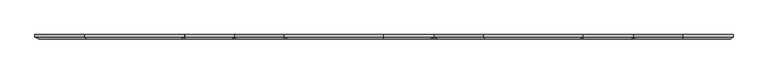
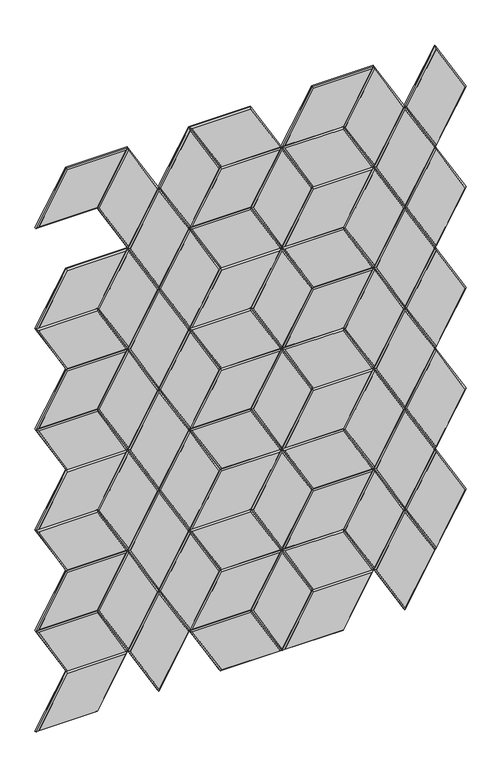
"""IFC4 building model written with IfcOpenShell, lengths in millimetres: proxy geometry, Wall_Cissu 8.3dm."""

import ifcopenshell
import ifcopenshell.guid

model = None  # the IFC model being written
_history = None  # IfcOwnerHistory: only IFC2X3 demands one
_inside = {}  # id of a spatial element -> (the spatial element, [elements in it])
_under = {}  # id of a project, library or spatial element -> (it, [spatial elements below it])
_declared = {}  # id of a project -> (the project, [libraries it declares])
_typed = {}  # id of a type object -> (the type object, [elements of that type])
_made_of = {}  # id of a material, layer set ... -> (it, [elements and type objects made of it])


def new_model(schema):
    """Start an empty IFC model of exactly this schema.

    Asked for "IFC4X3", IfcOpenShell would pick the latest addendum, in which some entities
    have other attributes; the version numbers below select the first issue.
    IFC2X3 requires an IfcOwnerHistory on every rooted entity: one is made here for all.
    """
    global model, _history
    if schema == "IFC4X3":
        model = ifcopenshell.file(schema_version=(4, 3, 0, 0))
    else:
        model = ifcopenshell.file(schema=schema)
    _inside.clear()
    _under.clear()
    _declared.clear()
    _typed.clear()
    _made_of.clear()
    _history = None
    if model.schema == "IFC2X3":
        org = make("IfcOrganization", Name="unknown")
        user = make(
            "IfcPersonAndOrganization",
            ThePerson=make("IfcPerson", FamilyName="unknown"),
            TheOrganization=org,
        )
        app = make(
            "IfcApplication",
            ApplicationDeveloper=org,
            Version="unknown",
            ApplicationFullName="unknown",
            ApplicationIdentifier="unknown",
        )
        _history = make(
            "IfcOwnerHistory",
            OwningUser=user,
            OwningApplication=app,
            ChangeAction="ADDED",
            CreationDate=0,
        )
    return model


def make(cls, **values):
    """One entity of the class cls with the attributes given. An attribute that is None is left unset."""
    return model.create_entity(
        cls, **{name: value for name, value in values.items() if value is not None}
    )


def rooted(cls, **values):
    """An entity with a GlobalId (a new one), such as an element, a storey or a relation."""
    return make(cls, GlobalId=ifcopenshell.guid.new(), OwnerHistory=_history, **values)


def si_unit(unit_type, name, prefix=None):
    """IfcSIUnit, for example si_unit("LENGTHUNIT", "METRE", prefix="MILLI")."""
    return make("IfcSIUnit", UnitType=unit_type, Prefix=prefix, Name=name)


def assignment(units):
    """IfcUnitAssignment: the units of a project."""
    return None if units is None else make("IfcUnitAssignment", Units=units)


def point(xyz):
    """IfcCartesianPoint."""
    return None if xyz is None else make("IfcCartesianPoint", Coordinates=xyz)


def direction(xyz):
    """IfcDirection."""
    return None if xyz is None else make("IfcDirection", DirectionRatios=xyz)


def frame(location, z_axis=None, x_axis=None):
    """IfcAxis2Placement3D, a coordinate frame: its origin and axes. An axis left out is left unset."""
    return make(
        "IfcAxis2Placement3D",
        Location=point(location),
        Axis=direction(z_axis),
        RefDirection=direction(x_axis),
    )


def origin():
    """The frame at (0, 0, 0) with its axes left unset."""
    return frame((0.0, 0.0, 0.0))


def place(relative_to, where):
    """IfcLocalPlacement: puts the frame where relative to a parent placement (None: the world)."""
    return make(
        "IfcLocalPlacement", PlacementRelTo=relative_to, RelativePlacement=where
    )


def context(
    kind, dimensions, precision=None, world=None, true_north=None, identifier=None
):
    """IfcGeometricRepresentationContext, for example the 3D "Model" context."""
    return make(
        "IfcGeometricRepresentationContext",
        ContextIdentifier=identifier,
        ContextType=kind,
        CoordinateSpaceDimension=dimensions,
        Precision=precision,
        WorldCoordinateSystem=world,
        TrueNorth=true_north,
    )


def project(units=None, contexts=None):
    """IfcProject with its units and contexts."""
    return rooted(
        "IfcProject",
        Name="project",
        RepresentationContexts=contexts,
        UnitsInContext=assignment(units),
    )


def spatial(cls, under=None, at=None, **own):
    """A site, building, storey or space (cls), placed at a placement, below another one or the project."""
    s = rooted(cls, ObjectPlacement=at, **own)
    if under is not None:
        _under.setdefault(under.id(), (under, []))[1].append(s)
    return s


def faces_of(points, faces, orient=None, outer=None):
    """IfcFace entities. A face is a list of loops; a loop is a list of indices into points, from 0.

    orient and outer hold one flag for each loop. By default every Orientation is true, the
    first loop of a face is its IfcFaceOuterBound and the others are IfcFaceBound.
    """
    made = []
    for i, loops in enumerate(faces):
        bounds = []
        for j, loop in enumerate(loops):
            is_outer = j == 0 if outer is None else outer[i][j]
            bounds.append(
                make(
                    "IfcFaceOuterBound" if is_outer else "IfcFaceBound",
                    Bound=make("IfcPolyLoop", Polygon=[points[k] for k in loop]),
                    Orientation=True if orient is None else orient[i][j],
                )
            )
        made.append(make("IfcFace", Bounds=bounds))
    return made


def faceted_brep(points, faces, orient=None, outer=None, voids=None):
    """IfcFacetedBrep: a solid bounded by flat faces; with voids (closed shells), ...WithVoids."""
    shared = [point(p) for p in points]
    hull = make("IfcClosedShell", CfsFaces=faces_of(shared, faces, orient, outer))
    if voids is None:
        return make("IfcFacetedBrep", Outer=hull)
    return make(
        "IfcFacetedBrepWithVoids",
        Outer=hull,
        Voids=[
            make(cls, CfsFaces=faces_of(shared, fs, o, b)) for cls, fs, o, b in voids
        ],
    )


def shape(context_of_items, identifier, shape_type, items):
    """IfcShapeRepresentation: the items that make up one representation, for example the "Body"."""
    return make(
        "IfcShapeRepresentation",
        ContextOfItems=context_of_items,
        RepresentationIdentifier=identifier,
        RepresentationType=shape_type,
        Items=items,
    )


def source(mapping_origin, context_of_items, identifier, shape_type, items):
    """IfcRepresentationMap: a shape defined once, which mapped items show again and again."""
    return make(
        "IfcRepresentationMap",
        MappingOrigin=mapping_origin,
        MappedRepresentation=shape(context_of_items, identifier, shape_type, items),
    )


def transform(
    local_origin,
    x_axis=None,
    y_axis=None,
    z_axis=None,
    scale=None,
    scale2=None,
    scale3=None,
    uniform=True,
):
    """IfcCartesianTransformationOperator3D, or its non-uniform kind. x_axis, y_axis, z_axis: its Axis1, 2, 3."""
    if uniform:
        return make(
            "IfcCartesianTransformationOperator3D",
            Axis1=direction(x_axis),
            Axis2=direction(y_axis),
            LocalOrigin=point(local_origin),
            Scale=scale,
            Axis3=direction(z_axis),
        )
    return make(
        "IfcCartesianTransformationOperator3DnonUniform",
        Axis1=direction(x_axis),
        Axis2=direction(y_axis),
        LocalOrigin=point(local_origin),
        Scale=scale,
        Axis3=direction(z_axis),
        Scale2=scale2,
        Scale3=scale3,
    )


def mapped(mapping_source, mapping_target):
    """IfcMappedItem: shows the shape of a source again, moved by a transform."""
    return make(
        "IfcMappedItem", MappingSource=mapping_source, MappingTarget=mapping_target
    )


def made_of(thing, what):
    """Note that an element or type object is made of a material, layer set ...; save() writes the relation."""
    if what is not None:
        _made_of.setdefault(what.id(), (what, []))[1].append(thing)
    return thing


def element(
    cls,
    number,
    at=None,
    inside=None,
    cuts=None,
    type_object=None,
    material=None,
    context=None,
    identifier="Body",
    shape_type=None,
    held_by="IfcProductDefinitionShape",
    body=None,
    shapes=None,
    **own,
):
    """One element of the class cls, such as IfcWall. Its Tag is "e" and its number.

    at: its placement. inside: the storey or other place that contains it. cuts: it is an
    opening in that element (IfcRelVoidsElement). A single representation is given by context,
    identifier, shape_type and body (its items); several are given by shapes. held_by: the class
    of the entity that holds the representations. save() writes the other relations.
    """
    e = rooted(cls, Tag="e%d" % number, ObjectPlacement=at, **own)
    if body is not None:
        shapes = [shape(context, identifier, shape_type, body)]
    if shapes is not None:
        e.Representation = make(held_by, Representations=shapes)
    if inside is not None:
        _inside.setdefault(inside.id(), (inside, []))[1].append(e)
    if cuts is not None:
        rooted(
            "IfcRelVoidsElement", RelatingBuildingElement=cuts, RelatedOpeningElement=e
        )
    if type_object is not None:
        _typed.setdefault(type_object.id(), (type_object, []))[1].append(e)
    return made_of(e, material)


def aggregate(whole, parts):
    """IfcRelAggregates: a whole, such as a stair, and the parts it consists of."""
    return rooted("IfcRelAggregates", RelatingObject=whole, RelatedObjects=parts)


def save(model, path):
    """Write the relations noted so far, then the file.

    IfcRelAggregates (storeys below a building ...), IfcRelContainedInSpatialStructure (elements
    in a storey), IfcRelDefinesByType, IfcRelAssociatesMaterial and IfcRelDeclares: one each for
    every whole, place, type object, material and project.
    """
    for whole, parts in _under.values():
        aggregate(whole, parts)
    for where, things in _inside.values():
        rooted(
            "IfcRelContainedInSpatialStructure",
            RelatedElements=things,
            RelatingStructure=where,
        )
    for kind, things in _typed.values():
        rooted("IfcRelDefinesByType", RelatedObjects=things, RelatingType=kind)
    for what, things in _made_of.values():
        rooted("IfcRelAssociatesMaterial", RelatedObjects=things, RelatingMaterial=what)
    for by, libraries in _declared.values():
        rooted("IfcRelDeclares", RelatingContext=by, RelatedDefinitions=libraries)
    model.write(path)


def generic_models_9c3d61d5(model_context):
    return source(origin(), model_context, "Body", "Brep", [
        faceted_brep([(12312.9011681, 6.0, 2316.0650044), (12033.5011681, 6.0, 2316.0650044), (12173.2011681, 6.0, 2558.0325022), (12452.6011681, 6.0, 2558.0325022), (12312.9011681, 0.0, 2316.0650044), (12033.5011681, 0.0, 2316.0650044), (12173.2011681, 0.0, 2558.0325022), (12452.6011681, 0.0, 2558.0325022), (12176.6652697, -6.0, 2552.0325022), (12043.8934729, -6.0, 2322.0650044), (12309.4370664, -6.0, 2322.0650044), (12442.2088632, -6.0, 2552.0325022)], [[[0, 1, 2, 3]], [[4, 5, 1, 0]], [[5, 6, 2, 1]], [[6, 7, 3, 2]], [[7, 4, 0, 3]], [[8, 9, 10, 11]], [[4, 10, 9, 5]], [[5, 9, 8, 6]], [[6, 8, 11, 7]], [[7, 11, 10, 4]]]),
        faceted_brep([(12312.9011681, 6.0, 2800.0), (12452.6011681, 6.0, 2558.0325022), (12173.2011681, 6.0, 2558.0325022), (12033.5011681, 6.0, 2800.0), (12312.9011681, 0.0, 2800.0), (12033.5011681, 0.0, 2800.0), (12173.2011681, 0.0, 2558.0325022), (12452.6011681, 0.0, 2558.0325022), (12176.6652697, -6.0, 2564.0325022), (12442.2088632, -6.0, 2564.0325022), (12309.4370664, -6.0, 2794.0), (12043.8934729, -6.0, 2794.0)], [[[0, 1, 2, 3]], [[4, 0, 3, 5]], [[5, 3, 2, 6]], [[6, 2, 1, 7]], [[7, 1, 0, 4]], [[8, 9, 10, 11]], [[4, 5, 11, 10]], [[5, 6, 8, 11]], [[6, 7, 9, 8]], [[7, 4, 10, 9]]]),
        faceted_brep([(12173.2011681, 6.0, 2558.0325022), (12033.5011681, 6.0, 2316.0650044), (11893.8011681, 6.0, 2558.0325022), (12033.5011681, 6.0, 2800.0), (12173.2011681, 0.0, 2558.0325022), (12033.5011681, 0.0, 2800.0), (11893.8011681, 0.0, 2558.0325022), (12033.5011681, 0.0, 2316.0650044), (11900.7293713, -6.0, 2558.0325022), (12033.5011681, -6.0, 2328.0650044), (12166.2729648, -6.0, 2558.0325022), (12033.5011681, -6.0, 2788.0)], [[[0, 1, 2, 3]], [[4, 0, 3, 5]], [[5, 3, 2, 6]], [[6, 2, 1, 7]], [[7, 1, 0, 4]], [[8, 9, 10, 11]], [[4, 5, 11, 10]], [[5, 6, 8, 11]], [[6, 7, 9, 8]], [[7, 4, 10, 9]]]),
        faceted_brep([(11614.4011681, 6.0, 2558.0325022), (11754.1011681, 6.0, 2800.0), (11893.8011681, 6.0, 2558.0325022), (11754.1011681, 6.0, 2316.0650044), (11614.4011681, 0.0, 2558.0325022), (11754.1011681, 0.0, 2800.0), (11893.8011681, 0.0, 2558.0325022), (11754.1011681, 0.0, 2316.0650044), (11886.8729648, -6.0, 2558.0325022), (11754.1011681, -6.0, 2788.0), (11621.3293713, -6.0, 2558.0325022), (11754.1011681, -6.0, 2328.0650044)], [[[0, 1, 2, 3]], [[4, 5, 1, 0]], [[5, 6, 2, 1]], [[6, 7, 3, 2]], [[7, 4, 0, 3]], [[8, 9, 10, 11]], [[4, 10, 9, 5]], [[5, 9, 8, 6]], [[6, 8, 11, 7]], [[7, 11, 10, 4]]]),
        faceted_brep([(12033.5011681, 6.0, 2316.0650044), (11893.8011681, 6.0, 2074.0975065), (11754.1011681, 6.0, 2316.0650044), (11893.8011681, 6.0, 2558.0325022), (12033.5011681, 0.0, 2316.0650044), (11893.8011681, 0.0, 2558.0325022), (11754.1011681, 0.0, 2316.0650044), (11893.8011681, 0.0, 2074.0975065), (11761.0293713, -6.0, 2316.0650044), (11893.8011681, -6.0, 2086.0975065), (12026.5729648, -6.0, 2316.0650044), (11893.8011681, -6.0, 2546.0325022)], [[[0, 1, 2, 3]], [[4, 0, 3, 5]], [[5, 3, 2, 6]], [[6, 2, 1, 7]], [[7, 1, 0, 4]], [[8, 9, 10, 11]], [[4, 5, 11, 10]], [[5, 6, 8, 11]], [[6, 7, 9, 8]], [[7, 4, 10, 9]]]),
        faceted_brep([(12312.9011681, 6.0, 1832.1300087), (12033.5011681, 6.0, 1832.1300087), (12173.2011681, 6.0, 2074.0975065), (12452.6011681, 6.0, 2074.0975065), (12312.9011681, 0.0, 1832.1300087), (12033.5011681, 0.0, 1832.1300087), (12173.2011681, 0.0, 2074.0975065), (12452.6011681, 0.0, 2074.0975065), (12176.6652697, -6.0, 2068.0975065), (12043.8934729, -6.0, 1838.1300087), (12309.4370664, -6.0, 1838.1300087), (12442.2088632, -6.0, 2068.0975065)], [[[0, 1, 2, 3]], [[4, 5, 1, 0]], [[5, 6, 2, 1]], [[6, 7, 3, 2]], [[7, 4, 0, 3]], [[8, 9, 10, 11]], [[4, 10, 9, 5]], [[5, 9, 8, 6]], [[6, 8, 11, 7]], [[7, 11, 10, 4]]]),
        faceted_brep([(12312.9011681, 6.0, 2316.0650044), (12452.6011681, 6.0, 2074.0975065), (12173.2011681, 6.0, 2074.0975065), (12033.5011681, 6.0, 2316.0650044), (12312.9011681, 0.0, 2316.0650044), (12033.5011681, 0.0, 2316.0650044), (12173.2011681, 0.0, 2074.0975065), (12452.6011681, 0.0, 2074.0975065), (12176.6652697, -6.0, 2080.0975065), (12442.2088632, -6.0, 2080.0975065), (12309.4370664, -6.0, 2310.0650044), (12043.8934729, -6.0, 2310.0650044)], [[[0, 1, 2, 3]], [[4, 0, 3, 5]], [[5, 3, 2, 6]], [[6, 2, 1, 7]], [[7, 1, 0, 4]], [[8, 9, 10, 11]], [[4, 5, 11, 10]], [[5, 6, 8, 11]], [[6, 7, 9, 8]], [[7, 4, 10, 9]]]),
        faceted_brep([(12173.2011681, 6.0, 2074.0975065), (12033.5011681, 6.0, 1832.1300087), (11893.8011681, 6.0, 2074.0975065), (12033.5011681, 6.0, 2316.0650044), (12173.2011681, 0.0, 2074.0975065), (12033.5011681, 0.0, 2316.0650044), (11893.8011681, 0.0, 2074.0975065), (12033.5011681, 0.0, 1832.1300087), (11900.7293713, -6.0, 2074.0975065), (12033.5011681, -6.0, 1844.1300087), (12166.2729648, -6.0, 2074.0975065), (12033.5011681, -6.0, 2304.0650044)], [[[0, 1, 2, 3]], [[4, 0, 3, 5]], [[5, 3, 2, 6]], [[6, 2, 1, 7]], [[7, 1, 0, 4]], [[8, 9, 10, 11]], [[4, 5, 11, 10]], [[5, 6, 8, 11]], [[6, 7, 9, 8]], [[7, 4, 10, 9]]]),
        faceted_brep([(11614.4011681, 6.0, 2074.0975065), (11754.1011681, 6.0, 2316.0650044), (11893.8011681, 6.0, 2074.0975065), (11754.1011681, 6.0, 1832.1300087), (11614.4011681, 0.0, 2074.0975065), (11754.1011681, 0.0, 2316.0650044), (11893.8011681, 0.0, 2074.0975065), (11754.1011681, 0.0, 1832.1300087), (11886.8729648, -6.0, 2074.0975065), (11754.1011681, -6.0, 2304.0650044), (11621.3293713, -6.0, 2074.0975065), (11754.1011681, -6.0, 1844.1300087)], [[[0, 1, 2, 3]], [[4, 5, 1, 0]], [[5, 6, 2, 1]], [[6, 7, 3, 2]], [[7, 4, 0, 3]], [[8, 9, 10, 11]], [[4, 10, 9, 5]], [[5, 9, 8, 6]], [[6, 8, 11, 7]], [[7, 11, 10, 4]]]),
        faceted_brep([(12312.9011681, 6.0, 1348.1950131), (12033.5011681, 6.0, 1348.1950131), (12173.2011681, 6.0, 1590.1625109), (12452.6011681, 6.0, 1590.1625109), (12312.9011681, 0.0, 1348.1950131), (12033.5011681, 0.0, 1348.1950131), (12173.2011681, 0.0, 1590.1625109), (12452.6011681, 0.0, 1590.1625109), (12176.6652697, -6.0, 1584.1625109), (12043.8934729, -6.0, 1354.1950131), (12309.4370664, -6.0, 1354.1950131), (12442.2088632, -6.0, 1584.1625109)], [[[0, 1, 2, 3]], [[4, 5, 1, 0]], [[5, 6, 2, 1]], [[6, 7, 3, 2]], [[7, 4, 0, 3]], [[8, 9, 10, 11]], [[4, 10, 9, 5]], [[5, 9, 8, 6]], [[6, 8, 11, 7]], [[7, 11, 10, 4]]]),
        faceted_brep([(12312.9011681, 6.0, 1832.1300087), (12452.6011681, 6.0, 1590.1625109), (12173.2011681, 6.0, 1590.1625109), (12033.5011681, 6.0, 1832.1300087), (12312.9011681, 0.0, 1832.1300087), (12033.5011681, 0.0, 1832.1300087), (12173.2011681, 0.0, 1590.1625109), (12452.6011681, 0.0, 1590.1625109), (12176.6652697, -6.0, 1596.1625109), (12442.2088632, -6.0, 1596.1625109), (12309.4370664, -6.0, 1826.1300087), (12043.8934729, -6.0, 1826.1300087)], [[[0, 1, 2, 3]], [[4, 0, 3, 5]], [[5, 3, 2, 6]], [[6, 2, 1, 7]], [[7, 1, 0, 4]], [[8, 9, 10, 11]], [[4, 5, 11, 10]], [[5, 6, 8, 11]], [[6, 7, 9, 8]], [[7, 4, 10, 9]]]),
        faceted_brep([(12173.2011681, 6.0, 1590.1625109), (12033.5011681, 6.0, 1348.1950131), (11893.8011681, 6.0, 1590.1625109), (12033.5011681, 6.0, 1832.1300087), (12173.2011681, 0.0, 1590.1625109), (12033.5011681, 0.0, 1832.1300087), (11893.8011681, 0.0, 1590.1625109), (12033.5011681, 0.0, 1348.1950131), (11900.7293713, -6.0, 1590.1625109), (12033.5011681, -6.0, 1360.1950131), (12166.2729648, -6.0, 1590.1625109), (12033.5011681, -6.0, 1820.1300087)], [[[0, 1, 2, 3]], [[4, 0, 3, 5]], [[5, 3, 2, 6]], [[6, 2, 1, 7]], [[7, 1, 0, 4]], [[8, 9, 10, 11]], [[4, 5, 11, 10]], [[5, 6, 8, 11]], [[6, 7, 9, 8]], [[7, 4, 10, 9]]]),
        faceted_brep([(11614.4011681, 6.0, 1590.1625109), (11754.1011681, 6.0, 1832.1300087), (11893.8011681, 6.0, 1590.1625109), (11754.1011681, 6.0, 1348.1950131), (11614.4011681, 0.0, 1590.1625109), (11754.1011681, 0.0, 1832.1300087), (11893.8011681, 0.0, 1590.1625109), (11754.1011681, 0.0, 1348.1950131), (11886.8729648, -6.0, 1590.1625109), (11754.1011681, -6.0, 1820.1300087), (11621.3293713, -6.0, 1590.1625109), (11754.1011681, -6.0, 1360.1950131)], [[[0, 1, 2, 3]], [[4, 5, 1, 0]], [[5, 6, 2, 1]], [[6, 7, 3, 2]], [[7, 4, 0, 3]], [[8, 9, 10, 11]], [[4, 10, 9, 5]], [[5, 9, 8, 6]], [[6, 8, 11, 7]], [[7, 11, 10, 4]]]),
        faceted_brep([(12033.5011681, 6.0, 1348.1950131), (11893.8011681, 6.0, 1106.2275153), (11754.1011681, 6.0, 1348.1950131), (11893.8011681, 6.0, 1590.1625109), (12033.5011681, 0.0, 1348.1950131), (11893.8011681, 0.0, 1590.1625109), (11754.1011681, 0.0, 1348.1950131), (11893.8011681, 0.0, 1106.2275153), (11761.0293713, -6.0, 1348.1950131), (11893.8011681, -6.0, 1118.2275153), (12026.5729648, -6.0, 1348.1950131), (11893.8011681, -6.0, 1578.1625109)], [[[0, 1, 2, 3]], [[4, 0, 3, 5]], [[5, 3, 2, 6]], [[6, 2, 1, 7]], [[7, 1, 0, 4]], [[8, 9, 10, 11]], [[4, 5, 11, 10]], [[5, 6, 8, 11]], [[6, 7, 9, 8]], [[7, 4, 10, 9]]]),
        faceted_brep([(12033.5011681, 6.0, 1832.1300087), (11893.8011681, 6.0, 1590.1625109), (11754.1011681, 6.0, 1832.1300087), (11893.8011681, 6.0, 2074.0975065), (12033.5011681, 0.0, 1832.1300087), (11893.8011681, 0.0, 2074.0975065), (11754.1011681, 0.0, 1832.1300087), (11893.8011681, 0.0, 1590.1625109), (11761.0293713, -6.0, 1832.1300087), (11893.8011681, -6.0, 1602.1625109), (12026.5729648, -6.0, 1832.1300087), (11893.8011681, -6.0, 2062.0975065)], [[[0, 1, 2, 3]], [[4, 0, 3, 5]], [[5, 3, 2, 6]], [[6, 2, 1, 7]], [[7, 1, 0, 4]], [[8, 9, 10, 11]], [[4, 5, 11, 10]], [[5, 6, 8, 11]], [[6, 7, 9, 8]], [[7, 4, 10, 9]]]),
        faceted_brep([(12312.9011681, 6.0, 864.2600175), (12033.5011681, 6.0, 864.2600175), (12173.2011681, 6.0, 1106.2275153), (12452.6011681, 6.0, 1106.2275153), (12312.9011681, 0.0, 864.2600175), (12033.5011681, 0.0, 864.2600175), (12173.2011681, 0.0, 1106.2275153), (12452.6011681, 0.0, 1106.2275153), (12176.6652697, -6.0, 1100.2275153), (12043.8934729, -6.0, 870.2600175), (12309.4370664, -6.0, 870.2600175), (12442.2088632, -6.0, 1100.2275153)], [[[0, 1, 2, 3]], [[4, 5, 1, 0]], [[5, 6, 2, 1]], [[6, 7, 3, 2]], [[7, 4, 0, 3]], [[8, 9, 10, 11]], [[4, 10, 9, 5]], [[5, 9, 8, 6]], [[6, 8, 11, 7]], [[7, 11, 10, 4]]]),
        faceted_brep([(12312.9011681, 6.0, 1348.1950131), (12452.6011681, 6.0, 1106.2275153), (12173.2011681, 6.0, 1106.2275153), (12033.5011681, 6.0, 1348.1950131), (12312.9011681, 0.0, 1348.1950131), (12033.5011681, 0.0, 1348.1950131), (12173.2011681, 0.0, 1106.2275153), (12452.6011681, 0.0, 1106.2275153), (12176.6652697, -6.0, 1112.2275153), (12442.2088632, -6.0, 1112.2275153), (12309.4370664, -6.0, 1342.1950131), (12043.8934729, -6.0, 1342.1950131)], [[[0, 1, 2, 3]], [[4, 0, 3, 5]], [[5, 3, 2, 6]], [[6, 2, 1, 7]], [[7, 1, 0, 4]], [[8, 9, 10, 11]], [[4, 5, 11, 10]], [[5, 6, 8, 11]], [[6, 7, 9, 8]], [[7, 4, 10, 9]]]),
        faceted_brep([(12173.2011681, 6.0, 1106.2275153), (12033.5011681, 6.0, 864.2600175), (11893.8011681, 6.0, 1106.2275153), (12033.5011681, 6.0, 1348.1950131), (12173.2011681, 0.0, 1106.2275153), (12033.5011681, 0.0, 1348.1950131), (11893.8011681, 0.0, 1106.2275153), (12033.5011681, 0.0, 864.2600175), (11900.7293713, -6.0, 1106.2275153), (12033.5011681, -6.0, 876.2600175), (12166.2729648, -6.0, 1106.2275153), (12033.5011681, -6.0, 1336.1950131)], [[[0, 1, 2, 3]], [[4, 0, 3, 5]], [[5, 3, 2, 6]], [[6, 2, 1, 7]], [[7, 1, 0, 4]], [[8, 9, 10, 11]], [[4, 5, 11, 10]], [[5, 6, 8, 11]], [[6, 7, 9, 8]], [[7, 4, 10, 9]]]),
        faceted_brep([(11614.4011681, 6.0, 1106.2275153), (11754.1011681, 6.0, 1348.1950131), (11893.8011681, 6.0, 1106.2275153), (11754.1011681, 6.0, 864.2600175), (11614.4011681, 0.0, 1106.2275153), (11754.1011681, 0.0, 1348.1950131), (11893.8011681, 0.0, 1106.2275153), (11754.1011681, 0.0, 864.2600175), (11886.8729648, -6.0, 1106.2275153), (11754.1011681, -6.0, 1336.1950131), (11621.3293713, -6.0, 1106.2275153), (11754.1011681, -6.0, 876.2600175)], [[[0, 1, 2, 3]], [[4, 5, 1, 0]], [[5, 6, 2, 1]], [[6, 7, 3, 2]], [[7, 4, 0, 3]], [[8, 9, 10, 11]], [[4, 10, 9, 5]], [[5, 9, 8, 6]], [[6, 8, 11, 7]], [[7, 11, 10, 4]]]),
        faceted_brep([(13290.8011681, 6.0, 2558.0325022), (13151.1011681, 6.0, 2316.0650044), (13011.4011681, 6.0, 2558.0325022), (13151.1011681, 6.0, 2800.0), (13290.8011681, 0.0, 2558.0325022), (13151.1011681, 0.0, 2800.0), (13011.4011681, 0.0, 2558.0325022), (13151.1011681, 0.0, 2316.0650044), (13018.3293713, -6.0, 2558.0325022), (13151.1011681, -6.0, 2328.0650044), (13283.8729648, -6.0, 2558.0325022), (13151.1011681, -6.0, 2788.0)], [[[0, 1, 2, 3]], [[4, 0, 3, 5]], [[5, 3, 2, 6]], [[6, 2, 1, 7]], [[7, 1, 0, 4]], [[8, 9, 10, 11]], [[4, 5, 11, 10]], [[5, 6, 8, 11]], [[6, 7, 9, 8]], [[7, 4, 10, 9]]]),
        faceted_brep([(12592.3011681, 6.0, 2316.0650044), (12452.6011681, 6.0, 2558.0325022), (12732.0011681, 6.0, 2558.0325022), (12871.7011681, 6.0, 2316.0650044), (12592.3011681, 0.0, 2316.0650044), (12871.7011681, 0.0, 2316.0650044), (12732.0011681, 0.0, 2558.0325022), (12452.6011681, 0.0, 2558.0325022), (12728.5370664, -6.0, 2552.0325022), (12462.9934729, -6.0, 2552.0325022), (12595.7652697, -6.0, 2322.0650044), (12861.3088632, -6.0, 2322.0650044)], [[[0, 1, 2, 3]], [[4, 0, 3, 5]], [[5, 3, 2, 6]], [[6, 2, 1, 7]], [[7, 1, 0, 4]], [[8, 9, 10, 11]], [[4, 5, 11, 10]], [[5, 6, 8, 11]], [[6, 7, 9, 8]], [[7, 4, 10, 9]]]),
        faceted_brep([(12592.3011681, 6.0, 2800.0), (12871.7011681, 6.0, 2800.0), (12732.0011681, 6.0, 2558.0325022), (12452.6011681, 6.0, 2558.0325022), (12592.3011681, 0.0, 2800.0), (12871.7011681, 0.0, 2800.0), (12732.0011681, 0.0, 2558.0325022), (12452.6011681, 0.0, 2558.0325022), (12728.5370664, -6.0, 2564.0325022), (12861.3088632, -6.0, 2794.0), (12595.7652697, -6.0, 2794.0), (12462.9934729, -6.0, 2564.0325022)], [[[0, 1, 2, 3]], [[4, 5, 1, 0]], [[5, 6, 2, 1]], [[6, 7, 3, 2]], [[7, 4, 0, 3]], [[8, 9, 10, 11]], [[4, 10, 9, 5]], [[5, 9, 8, 6]], [[6, 8, 11, 7]], [[7, 11, 10, 4]]]),
        faceted_brep([(12732.0011681, 6.0, 2558.0325022), (12871.7011681, 6.0, 2800.0), (13011.4011681, 6.0, 2558.0325022), (12871.7011681, 6.0, 2316.0650044), (12732.0011681, 0.0, 2558.0325022), (12871.7011681, 0.0, 2800.0), (13011.4011681, 0.0, 2558.0325022), (12871.7011681, 0.0, 2316.0650044), (13004.4729648, -6.0, 2558.0325022), (12871.7011681, -6.0, 2788.0), (12738.9293713, -6.0, 2558.0325022), (12871.7011681, -6.0, 2328.0650044)], [[[0, 1, 2, 3]], [[4, 5, 1, 0]], [[5, 6, 2, 1]], [[6, 7, 3, 2]], [[7, 4, 0, 3]], [[8, 9, 10, 11]], [[4, 10, 9, 5]], [[5, 9, 8, 6]], [[6, 8, 11, 7]], [[7, 11, 10, 4]]]),
        faceted_brep([(13151.1011681, 6.0, 2316.0650044), (13011.4011681, 6.0, 2074.0975065), (12871.7011681, 6.0, 2316.0650044), (13011.4011681, 6.0, 2558.0325022), (13151.1011681, 0.0, 2316.0650044), (13011.4011681, 0.0, 2558.0325022), (12871.7011681, 0.0, 2316.0650044), (13011.4011681, 0.0, 2074.0975065), (12878.6293713, -6.0, 2316.0650044), (13011.4011681, -6.0, 2086.0975065), (13144.1729648, -6.0, 2316.0650044), (13011.4011681, -6.0, 2546.0325022)], [[[0, 1, 2, 3]], [[4, 0, 3, 5]], [[5, 3, 2, 6]], [[6, 2, 1, 7]], [[7, 1, 0, 4]], [[8, 9, 10, 11]], [[4, 5, 11, 10]], [[5, 6, 8, 11]], [[6, 7, 9, 8]], [[7, 4, 10, 9]]]),
        faceted_brep([(13290.8011681, 6.0, 2074.0975065), (13151.1011681, 6.0, 1832.1300087), (13011.4011681, 6.0, 2074.0975065), (13151.1011681, 6.0, 2316.0650044), (13290.8011681, 0.0, 2074.0975065), (13151.1011681, 0.0, 2316.0650044), (13011.4011681, 0.0, 2074.0975065), (13151.1011681, 0.0, 1832.1300087), (13018.3293713, -6.0, 2074.0975065), (13151.1011681, -6.0, 1844.1300087), (13283.8729648, -6.0, 2074.0975065), (13151.1011681, -6.0, 2304.0650044)], [[[0, 1, 2, 3]], [[4, 0, 3, 5]], [[5, 3, 2, 6]], [[6, 2, 1, 7]], [[7, 1, 0, 4]], [[8, 9, 10, 11]], [[4, 5, 11, 10]], [[5, 6, 8, 11]], [[6, 7, 9, 8]], [[7, 4, 10, 9]]]),
        faceted_brep([(12592.3011681, 6.0, 1832.1300087), (12452.6011681, 6.0, 2074.0975065), (12732.0011681, 6.0, 2074.0975065), (12871.7011681, 6.0, 1832.1300087), (12592.3011681, 0.0, 1832.1300087), (12871.7011681, 0.0, 1832.1300087), (12732.0011681, 0.0, 2074.0975065), (12452.6011681, 0.0, 2074.0975065), (12728.5370664, -6.0, 2068.0975065), (12462.9934729, -6.0, 2068.0975065), (12595.7652697, -6.0, 1838.1300087), (12861.3088632, -6.0, 1838.1300087)], [[[0, 1, 2, 3]], [[4, 0, 3, 5]], [[5, 3, 2, 6]], [[6, 2, 1, 7]], [[7, 1, 0, 4]], [[8, 9, 10, 11]], [[4, 5, 11, 10]], [[5, 6, 8, 11]], [[6, 7, 9, 8]], [[7, 4, 10, 9]]]),
        faceted_brep([(12592.3011681, 6.0, 2316.0650044), (12871.7011681, 6.0, 2316.0650044), (12732.0011681, 6.0, 2074.0975065), (12452.6011681, 6.0, 2074.0975065), (12592.3011681, 0.0, 2316.0650044), (12871.7011681, 0.0, 2316.0650044), (12732.0011681, 0.0, 2074.0975065), (12452.6011681, 0.0, 2074.0975065), (12728.5370664, -6.0, 2080.0975065), (12861.3088632, -6.0, 2310.0650044), (12595.7652697, -6.0, 2310.0650044), (12462.9934729, -6.0, 2080.0975065)], [[[0, 1, 2, 3]], [[4, 5, 1, 0]], [[5, 6, 2, 1]], [[6, 7, 3, 2]], [[7, 4, 0, 3]], [[8, 9, 10, 11]], [[4, 10, 9, 5]], [[5, 9, 8, 6]], [[6, 8, 11, 7]], [[7, 11, 10, 4]]]),
        faceted_brep([(12732.0011681, 6.0, 2074.0975065), (12871.7011681, 6.0, 2316.0650044), (13011.4011681, 6.0, 2074.0975065), (12871.7011681, 6.0, 1832.1300087), (12732.0011681, 0.0, 2074.0975065), (12871.7011681, 0.0, 2316.0650044), (13011.4011681, 0.0, 2074.0975065), (12871.7011681, 0.0, 1832.1300087), (13004.4729648, -6.0, 2074.0975065), (12871.7011681, -6.0, 2304.0650044), (12738.9293713, -6.0, 2074.0975065), (12871.7011681, -6.0, 1844.1300087)], [[[0, 1, 2, 3]], [[4, 5, 1, 0]], [[5, 6, 2, 1]], [[6, 7, 3, 2]], [[7, 4, 0, 3]], [[8, 9, 10, 11]], [[4, 10, 9, 5]], [[5, 9, 8, 6]], [[6, 8, 11, 7]], [[7, 11, 10, 4]]]),
        faceted_brep([(13290.8011681, 6.0, 1590.1625109), (13151.1011681, 6.0, 1348.1950131), (13011.4011681, 6.0, 1590.1625109), (13151.1011681, 6.0, 1832.1300087), (13290.8011681, 0.0, 1590.1625109), (13151.1011681, 0.0, 1832.1300087), (13011.4011681, 0.0, 1590.1625109), (13151.1011681, 0.0, 1348.1950131), (13018.3293713, -6.0, 1590.1625109), (13151.1011681, -6.0, 1360.1950131), (13283.8729648, -6.0, 1590.1625109), (13151.1011681, -6.0, 1820.1300087)], [[[0, 1, 2, 3]], [[4, 0, 3, 5]], [[5, 3, 2, 6]], [[6, 2, 1, 7]], [[7, 1, 0, 4]], [[8, 9, 10, 11]], [[4, 5, 11, 10]], [[5, 6, 8, 11]], [[6, 7, 9, 8]], [[7, 4, 10, 9]]]),
        faceted_brep([(12592.3011681, 6.0, 1348.1950131), (12452.6011681, 6.0, 1590.1625109), (12732.0011681, 6.0, 1590.1625109), (12871.7011681, 6.0, 1348.1950131), (12592.3011681, 0.0, 1348.1950131), (12871.7011681, 0.0, 1348.1950131), (12732.0011681, 0.0, 1590.1625109), (12452.6011681, 0.0, 1590.1625109), (12728.5370664, -6.0, 1584.1625109), (12462.9934729, -6.0, 1584.1625109), (12595.7652697, -6.0, 1354.1950131), (12861.3088632, -6.0, 1354.1950131)], [[[0, 1, 2, 3]], [[4, 0, 3, 5]], [[5, 3, 2, 6]], [[6, 2, 1, 7]], [[7, 1, 0, 4]], [[8, 9, 10, 11]], [[4, 5, 11, 10]], [[5, 6, 8, 11]], [[6, 7, 9, 8]], [[7, 4, 10, 9]]]),
        faceted_brep([(12592.3011681, 6.0, 1832.1300087), (12871.7011681, 6.0, 1832.1300087), (12732.0011681, 6.0, 1590.1625109), (12452.6011681, 6.0, 1590.1625109), (12592.3011681, 0.0, 1832.1300087), (12871.7011681, 0.0, 1832.1300087), (12732.0011681, 0.0, 1590.1625109), (12452.6011681, 0.0, 1590.1625109), (12728.5370664, -6.0, 1596.1625109), (12861.3088632, -6.0, 1826.1300087), (12595.7652697, -6.0, 1826.1300087), (12462.9934729, -6.0, 1596.1625109)], [[[0, 1, 2, 3]], [[4, 5, 1, 0]], [[5, 6, 2, 1]], [[6, 7, 3, 2]], [[7, 4, 0, 3]], [[8, 9, 10, 11]], [[4, 10, 9, 5]], [[5, 9, 8, 6]], [[6, 8, 11, 7]], [[7, 11, 10, 4]]]),
        faceted_brep([(12732.0011681, 6.0, 1590.1625109), (12871.7011681, 6.0, 1832.1300087), (13011.4011681, 6.0, 1590.1625109), (12871.7011681, 6.0, 1348.1950131), (12732.0011681, 0.0, 1590.1625109), (12871.7011681, 0.0, 1832.1300087), (13011.4011681, 0.0, 1590.1625109), (12871.7011681, 0.0, 1348.1950131), (13004.4729648, -6.0, 1590.1625109), (12871.7011681, -6.0, 1820.1300087), (12738.9293713, -6.0, 1590.1625109), (12871.7011681, -6.0, 1360.1950131)], [[[0, 1, 2, 3]], [[4, 5, 1, 0]], [[5, 6, 2, 1]], [[6, 7, 3, 2]], [[7, 4, 0, 3]], [[8, 9, 10, 11]], [[4, 10, 9, 5]], [[5, 9, 8, 6]], [[6, 8, 11, 7]], [[7, 11, 10, 4]]]),
        faceted_brep([(13151.1011681, 6.0, 1348.1950131), (13011.4011681, 6.0, 1106.2275153), (12871.7011681, 6.0, 1348.1950131), (13011.4011681, 6.0, 1590.1625109), (13151.1011681, 0.0, 1348.1950131), (13011.4011681, 0.0, 1590.1625109), (12871.7011681, 0.0, 1348.1950131), (13011.4011681, 0.0, 1106.2275153), (12878.6293713, -6.0, 1348.1950131), (13011.4011681, -6.0, 1118.2275153), (13144.1729648, -6.0, 1348.1950131), (13011.4011681, -6.0, 1578.1625109)], [[[0, 1, 2, 3]], [[4, 0, 3, 5]], [[5, 3, 2, 6]], [[6, 2, 1, 7]], [[7, 1, 0, 4]], [[8, 9, 10, 11]], [[4, 5, 11, 10]], [[5, 6, 8, 11]], [[6, 7, 9, 8]], [[7, 4, 10, 9]]]),
        faceted_brep([(13151.1011681, 6.0, 1832.1300087), (13011.4011681, 6.0, 1590.1625109), (12871.7011681, 6.0, 1832.1300087), (13011.4011681, 6.0, 2074.0975065), (13151.1011681, 0.0, 1832.1300087), (13011.4011681, 0.0, 2074.0975065), (12871.7011681, 0.0, 1832.1300087), (13011.4011681, 0.0, 1590.1625109), (12878.6293713, -6.0, 1832.1300087), (13011.4011681, -6.0, 1602.1625109), (13144.1729648, -6.0, 1832.1300087), (13011.4011681, -6.0, 2062.0975065)], [[[0, 1, 2, 3]], [[4, 0, 3, 5]], [[5, 3, 2, 6]], [[6, 2, 1, 7]], [[7, 1, 0, 4]], [[8, 9, 10, 11]], [[4, 5, 11, 10]], [[5, 6, 8, 11]], [[6, 7, 9, 8]], [[7, 4, 10, 9]]]),
        faceted_brep([(13290.8011681, 6.0, 1106.2275153), (13151.1011681, 6.0, 864.2600175), (13011.4011681, 6.0, 1106.2275153), (13151.1011681, 6.0, 1348.1950131), (13290.8011681, 0.0, 1106.2275153), (13151.1011681, 0.0, 1348.1950131), (13011.4011681, 0.0, 1106.2275153), (13151.1011681, 0.0, 864.2600175), (13018.3293713, -6.0, 1106.2275153), (13151.1011681, -6.0, 876.2600175), (13283.8729648, -6.0, 1106.2275153), (13151.1011681, -6.0, 1336.1950131)], [[[0, 1, 2, 3]], [[4, 0, 3, 5]], [[5, 3, 2, 6]], [[6, 2, 1, 7]], [[7, 1, 0, 4]], [[8, 9, 10, 11]], [[4, 5, 11, 10]], [[5, 6, 8, 11]], [[6, 7, 9, 8]], [[7, 4, 10, 9]]]),
        faceted_brep([(12592.3011681, 6.0, 864.2600175), (12452.6011681, 6.0, 1106.2275153), (12732.0011681, 6.0, 1106.2275153), (12871.7011681, 6.0, 864.2600175), (12592.3011681, 0.0, 864.2600175), (12871.7011681, 0.0, 864.2600175), (12732.0011681, 0.0, 1106.2275153), (12452.6011681, 0.0, 1106.2275153), (12728.5370664, -6.0, 1100.2275153), (12462.9934729, -6.0, 1100.2275153), (12595.7652697, -6.0, 870.2600175), (12861.3088632, -6.0, 870.2600175)], [[[0, 1, 2, 3]], [[4, 0, 3, 5]], [[5, 3, 2, 6]], [[6, 2, 1, 7]], [[7, 1, 0, 4]], [[8, 9, 10, 11]], [[4, 5, 11, 10]], [[5, 6, 8, 11]], [[6, 7, 9, 8]], [[7, 4, 10, 9]]]),
        faceted_brep([(12592.3011681, 6.0, 1348.1950131), (12871.7011681, 6.0, 1348.1950131), (12732.0011681, 6.0, 1106.2275153), (12452.6011681, 6.0, 1106.2275153), (12592.3011681, 0.0, 1348.1950131), (12871.7011681, 0.0, 1348.1950131), (12732.0011681, 0.0, 1106.2275153), (12452.6011681, 0.0, 1106.2275153), (12728.5370664, -6.0, 1112.2275153), (12861.3088632, -6.0, 1342.1950131), (12595.7652697, -6.0, 1342.1950131), (12462.9934729, -6.0, 1112.2275153)], [[[0, 1, 2, 3]], [[4, 5, 1, 0]], [[5, 6, 2, 1]], [[6, 7, 3, 2]], [[7, 4, 0, 3]], [[8, 9, 10, 11]], [[4, 10, 9, 5]], [[5, 9, 8, 6]], [[6, 8, 11, 7]], [[7, 11, 10, 4]]]),
        faceted_brep([(12732.0011681, 6.0, 1106.2275153), (12871.7011681, 6.0, 1348.1950131), (13011.4011681, 6.0, 1106.2275153), (12871.7011681, 6.0, 864.2600175), (12732.0011681, 0.0, 1106.2275153), (12871.7011681, 0.0, 1348.1950131), (13011.4011681, 0.0, 1106.2275153), (12871.7011681, 0.0, 864.2600175), (13004.4729648, -6.0, 1106.2275153), (12871.7011681, -6.0, 1336.1950131), (12738.9293713, -6.0, 1106.2275153), (12871.7011681, -6.0, 876.2600175)], [[[0, 1, 2, 3]], [[4, 5, 1, 0]], [[5, 6, 2, 1]], [[6, 7, 3, 2]], [[7, 4, 0, 3]], [[8, 9, 10, 11]], [[4, 10, 9, 5]], [[5, 9, 8, 6]], [[6, 8, 11, 7]], [[7, 11, 10, 4]]]),
        faceted_brep([(12592.3011681, 6.0, 2316.0650044), (12452.6011681, 6.0, 2074.0975065), (12312.9011681, 6.0, 2316.0650044), (12452.6011681, 6.0, 2558.0325022), (12592.3011681, 0.0, 2316.0650044), (12452.6011681, 0.0, 2558.0325022), (12312.9011681, 0.0, 2316.0650044), (12452.6011681, 0.0, 2074.0975065), (12319.8293713, -6.0, 2316.0650044), (12452.6011681, -6.0, 2086.0975065), (12585.3729648, -6.0, 2316.0650044), (12452.6011681, -6.0, 2546.0325022)], [[[0, 1, 2, 3]], [[4, 0, 3, 5]], [[5, 3, 2, 6]], [[6, 2, 1, 7]], [[7, 1, 0, 4]], [[8, 9, 10, 11]], [[4, 5, 11, 10]], [[5, 6, 8, 11]], [[6, 7, 9, 8]], [[7, 4, 10, 9]]]),
        faceted_brep([(12592.3011681, 6.0, 1348.1950131), (12452.6011681, 6.0, 1106.2275153), (12312.9011681, 6.0, 1348.1950131), (12452.6011681, 6.0, 1590.1625109), (12592.3011681, 0.0, 1348.1950131), (12452.6011681, 0.0, 1590.1625109), (12312.9011681, 0.0, 1348.1950131), (12452.6011681, 0.0, 1106.2275153), (12319.8293713, -6.0, 1348.1950131), (12452.6011681, -6.0, 1118.2275153), (12585.3729648, -6.0, 1348.1950131), (12452.6011681, -6.0, 1578.1625109)], [[[0, 1, 2, 3]], [[4, 0, 3, 5]], [[5, 3, 2, 6]], [[6, 2, 1, 7]], [[7, 1, 0, 4]], [[8, 9, 10, 11]], [[4, 5, 11, 10]], [[5, 6, 8, 11]], [[6, 7, 9, 8]], [[7, 4, 10, 9]]]),
        faceted_brep([(12592.3011681, 6.0, 1832.1300087), (12452.6011681, 6.0, 1590.1625109), (12312.9011681, 6.0, 1832.1300087), (12452.6011681, 6.0, 2074.0975065), (12592.3011681, 0.0, 1832.1300087), (12452.6011681, 0.0, 2074.0975065), (12312.9011681, 0.0, 1832.1300087), (12452.6011681, 0.0, 1590.1625109), (12319.8293713, -6.0, 1832.1300087), (12452.6011681, -6.0, 1602.1625109), (12585.3729648, -6.0, 1832.1300087), (12452.6011681, -6.0, 2062.0975065)], [[[0, 1, 2, 3]], [[4, 0, 3, 5]], [[5, 3, 2, 6]], [[6, 2, 1, 7]], [[7, 1, 0, 4]], [[8, 9, 10, 11]], [[4, 5, 11, 10]], [[5, 6, 8, 11]], [[6, 7, 9, 8]], [[7, 4, 10, 9]]]),
        faceted_brep([(12312.9011681, 6.0, 380.3250218), (12033.5011681, 6.0, 380.3250218), (12173.2011681, 6.0, 622.2925196), (12452.6011681, 6.0, 622.2925196), (12312.9011681, 0.0, 380.3250218), (12033.5011681, 0.0, 380.3250218), (12173.2011681, 0.0, 622.2925196), (12452.6011681, 0.0, 622.2925196), (12176.6652697, -6.0, 616.2925196), (12043.8934729, -6.0, 386.3250218), (12309.4370664, -6.0, 386.3250218), (12442.2088632, -6.0, 616.2925196)], [[[0, 1, 2, 3]], [[4, 5, 1, 0]], [[5, 6, 2, 1]], [[6, 7, 3, 2]], [[7, 4, 0, 3]], [[8, 9, 10, 11]], [[4, 10, 9, 5]], [[5, 9, 8, 6]], [[6, 8, 11, 7]], [[7, 11, 10, 4]]]),
        faceted_brep([(12312.9011681, 6.0, 864.2600175), (12452.6011681, 6.0, 622.2925196), (12173.2011681, 6.0, 622.2925196), (12033.5011681, 6.0, 864.2600175), (12312.9011681, 0.0, 864.2600175), (12033.5011681, 0.0, 864.2600175), (12173.2011681, 0.0, 622.2925196), (12452.6011681, 0.0, 622.2925196), (12176.6652697, -6.0, 628.2925196), (12442.2088632, -6.0, 628.2925196), (12309.4370664, -6.0, 858.2600175), (12043.8934729, -6.0, 858.2600175)], [[[0, 1, 2, 3]], [[4, 0, 3, 5]], [[5, 3, 2, 6]], [[6, 2, 1, 7]], [[7, 1, 0, 4]], [[8, 9, 10, 11]], [[4, 5, 11, 10]], [[5, 6, 8, 11]], [[6, 7, 9, 8]], [[7, 4, 10, 9]]]),
        faceted_brep([(12173.2011681, 6.0, 622.2925196), (12033.5011681, 6.0, 380.3250218), (11893.8011681, 6.0, 622.2925196), (12033.5011681, 6.0, 864.2600175), (12173.2011681, 0.0, 622.2925196), (12033.5011681, 0.0, 864.2600175), (11893.8011681, 0.0, 622.2925196), (12033.5011681, 0.0, 380.3250218), (11900.7293713, -6.0, 622.2925196), (12033.5011681, -6.0, 392.3250218), (12166.2729648, -6.0, 622.2925196), (12033.5011681, -6.0, 852.2600175)], [[[0, 1, 2, 3]], [[4, 0, 3, 5]], [[5, 3, 2, 6]], [[6, 2, 1, 7]], [[7, 1, 0, 4]], [[8, 9, 10, 11]], [[4, 5, 11, 10]], [[5, 6, 8, 11]], [[6, 7, 9, 8]], [[7, 4, 10, 9]]]),
        faceted_brep([(11614.4011681, 6.0, 622.2925196), (11754.1011681, 6.0, 864.2600175), (11893.8011681, 6.0, 622.2925196), (11754.1011681, 6.0, 380.3250218), (11614.4011681, 0.0, 622.2925196), (11754.1011681, 0.0, 864.2600175), (11893.8011681, 0.0, 622.2925196), (11754.1011681, 0.0, 380.3250218), (11886.8729648, -6.0, 622.2925196), (11754.1011681, -6.0, 852.2600175), (11621.3293713, -6.0, 622.2925196), (11754.1011681, -6.0, 392.3250218)], [[[0, 1, 2, 3]], [[4, 5, 1, 0]], [[5, 6, 2, 1]], [[6, 7, 3, 2]], [[7, 4, 0, 3]], [[8, 9, 10, 11]], [[4, 10, 9, 5]], [[5, 9, 8, 6]], [[6, 8, 11, 7]], [[7, 11, 10, 4]]]),
        faceted_brep([(12033.5011681, 6.0, 380.3250218), (11893.8011681, 6.0, 138.357524), (11754.1011681, 6.0, 380.3250218), (11893.8011681, 6.0, 622.2925196), (12033.5011681, 0.0, 380.3250218), (11893.8011681, 0.0, 622.2925196), (11754.1011681, 0.0, 380.3250218), (11893.8011681, 0.0, 138.357524), (11761.0293713, -6.0, 380.3250218), (11893.8011681, -6.0, 150.357524), (12026.5729648, -6.0, 380.3250218), (11893.8011681, -6.0, 610.2925196)], [[[0, 1, 2, 3]], [[4, 0, 3, 5]], [[5, 3, 2, 6]], [[6, 2, 1, 7]], [[7, 1, 0, 4]], [[8, 9, 10, 11]], [[4, 5, 11, 10]], [[5, 6, 8, 11]], [[6, 7, 9, 8]], [[7, 4, 10, 9]]]),
        faceted_brep([(12312.9011681, 6.0, 380.3250218), (12452.6011681, 6.0, 138.357524), (12173.2011681, 6.0, 138.357524), (12033.5011681, 6.0, 380.3250218), (12312.9011681, 0.0, 380.3250218), (12033.5011681, 0.0, 380.3250218), (12173.2011681, 0.0, 138.357524), (12452.6011681, 0.0, 138.357524), (12176.6652697, -6.0, 144.357524), (12442.2088632, -6.0, 144.357524), (12309.4370664, -6.0, 374.3250218), (12043.8934729, -6.0, 374.3250218)], [[[0, 1, 2, 3]], [[4, 0, 3, 5]], [[5, 3, 2, 6]], [[6, 2, 1, 7]], [[7, 1, 0, 4]], [[8, 9, 10, 11]], [[4, 5, 11, 10]], [[5, 6, 8, 11]], [[6, 7, 9, 8]], [[7, 4, 10, 9]]]),
        faceted_brep([(13290.8011681, 6.0, 622.2925196), (13151.1011681, 6.0, 380.3250218), (13011.4011681, 6.0, 622.2925196), (13151.1011681, 6.0, 864.2600175), (13290.8011681, 0.0, 622.2925196), (13151.1011681, 0.0, 864.2600175), (13011.4011681, 0.0, 622.2925196), (13151.1011681, 0.0, 380.3250218), (13018.3293713, -6.0, 622.2925196), (13151.1011681, -6.0, 392.3250218), (13283.8729648, -6.0, 622.2925196), (13151.1011681, -6.0, 852.2600175)], [[[0, 1, 2, 3]], [[4, 0, 3, 5]], [[5, 3, 2, 6]], [[6, 2, 1, 7]], [[7, 1, 0, 4]], [[8, 9, 10, 11]], [[4, 5, 11, 10]], [[5, 6, 8, 11]], [[6, 7, 9, 8]], [[7, 4, 10, 9]]]),
        faceted_brep([(12592.3011681, 6.0, 380.3250218), (12452.6011681, 6.0, 622.2925196), (12732.0011681, 6.0, 622.2925196), (12871.7011681, 6.0, 380.3250218), (12592.3011681, 0.0, 380.3250218), (12871.7011681, 0.0, 380.3250218), (12732.0011681, 0.0, 622.2925196), (12452.6011681, 0.0, 622.2925196), (12728.5370664, -6.0, 616.2925196), (12462.9934729, -6.0, 616.2925196), (12595.7652697, -6.0, 386.3250218), (12861.3088632, -6.0, 386.3250218)], [[[0, 1, 2, 3]], [[4, 0, 3, 5]], [[5, 3, 2, 6]], [[6, 2, 1, 7]], [[7, 1, 0, 4]], [[8, 9, 10, 11]], [[4, 5, 11, 10]], [[5, 6, 8, 11]], [[6, 7, 9, 8]], [[7, 4, 10, 9]]]),
        faceted_brep([(12592.3011681, 6.0, 864.2600175), (12871.7011681, 6.0, 864.2600175), (12732.0011681, 6.0, 622.2925196), (12452.6011681, 6.0, 622.2925196), (12592.3011681, 0.0, 864.2600175), (12871.7011681, 0.0, 864.2600175), (12732.0011681, 0.0, 622.2925196), (12452.6011681, 0.0, 622.2925196), (12728.5370664, -6.0, 628.2925196), (12861.3088632, -6.0, 858.2600175), (12595.7652697, -6.0, 858.2600175), (12462.9934729, -6.0, 628.2925196)], [[[0, 1, 2, 3]], [[4, 5, 1, 0]], [[5, 6, 2, 1]], [[6, 7, 3, 2]], [[7, 4, 0, 3]], [[8, 9, 10, 11]], [[4, 10, 9, 5]], [[5, 9, 8, 6]], [[6, 8, 11, 7]], [[7, 11, 10, 4]]]),
        faceted_brep([(12732.0011681, 6.0, 622.2925196), (12871.7011681, 6.0, 864.2600175), (13011.4011681, 6.0, 622.2925196), (12871.7011681, 6.0, 380.3250218), (12732.0011681, 0.0, 622.2925196), (12871.7011681, 0.0, 864.2600175), (13011.4011681, 0.0, 622.2925196), (12871.7011681, 0.0, 380.3250218), (13004.4729648, -6.0, 622.2925196), (12871.7011681, -6.0, 852.2600175), (12738.9293713, -6.0, 622.2925196), (12871.7011681, -6.0, 392.3250218)], [[[0, 1, 2, 3]], [[4, 5, 1, 0]], [[5, 6, 2, 1]], [[6, 7, 3, 2]], [[7, 4, 0, 3]], [[8, 9, 10, 11]], [[4, 10, 9, 5]], [[5, 9, 8, 6]], [[6, 8, 11, 7]], [[7, 11, 10, 4]]]),
        faceted_brep([(13151.1011681, 6.0, 380.3250218), (13011.4011681, 6.0, 138.357524), (12871.7011681, 6.0, 380.3250218), (13011.4011681, 6.0, 622.2925196), (13151.1011681, 0.0, 380.3250218), (13011.4011681, 0.0, 622.2925196), (12871.7011681, 0.0, 380.3250218), (13011.4011681, 0.0, 138.357524), (12878.6293713, -6.0, 380.3250218), (13011.4011681, -6.0, 150.357524), (13144.1729648, -6.0, 380.3250218), (13011.4011681, -6.0, 610.2925196)], [[[0, 1, 2, 3]], [[4, 0, 3, 5]], [[5, 3, 2, 6]], [[6, 2, 1, 7]], [[7, 1, 0, 4]], [[8, 9, 10, 11]], [[4, 5, 11, 10]], [[5, 6, 8, 11]], [[6, 7, 9, 8]], [[7, 4, 10, 9]]]),
        faceted_brep([(12592.3011681, 6.0, 380.3250218), (12871.7011681, 6.0, 380.3250218), (12732.0011681, 6.0, 138.357524), (12452.6011681, 6.0, 138.357524), (12592.3011681, 0.0, 380.3250218), (12871.7011681, 0.0, 380.3250218), (12732.0011681, 0.0, 138.357524), (12452.6011681, 0.0, 138.357524), (12728.5370664, -6.0, 144.357524), (12861.3088632, -6.0, 374.3250218), (12595.7652697, -6.0, 374.3250218), (12462.9934729, -6.0, 144.357524)], [[[0, 1, 2, 3]], [[4, 5, 1, 0]], [[5, 6, 2, 1]], [[6, 7, 3, 2]], [[7, 4, 0, 3]], [[8, 9, 10, 11]], [[4, 10, 9, 5]], [[5, 9, 8, 6]], [[6, 8, 11, 7]], [[7, 11, 10, 4]]]),
        faceted_brep([(12592.3011681, 6.0, 380.3250218), (12452.6011681, 6.0, 138.357524), (12312.9011681, 6.0, 380.3250218), (12452.6011681, 6.0, 622.2925196), (12592.3011681, 0.0, 380.3250218), (12452.6011681, 0.0, 622.2925196), (12312.9011681, 0.0, 380.3250218), (12452.6011681, 0.0, 138.357524), (12319.8293713, -6.0, 380.3250218), (12452.6011681, -6.0, 150.357524), (12585.3729648, -6.0, 380.3250218), (12452.6011681, -6.0, 610.2925196)], [[[0, 1, 2, 3]], [[4, 0, 3, 5]], [[5, 3, 2, 6]], [[6, 2, 1, 7]], [[7, 1, 0, 4]], [[8, 9, 10, 11]], [[4, 5, 11, 10]], [[5, 6, 8, 11]], [[6, 7, 9, 8]], [[7, 4, 10, 9]]]),
        faceted_brep([(12033.5011681, 6.0, 864.2600175), (11893.8011681, 6.0, 622.2925196), (11754.1011681, 6.0, 864.2600175), (11893.8011681, 6.0, 1106.2275153), (12033.5011681, 0.0, 864.2600175), (11893.8011681, 0.0, 1106.2275153), (11754.1011681, 0.0, 864.2600175), (11893.8011681, 0.0, 622.2925196), (11761.0293713, -6.0, 864.2600175), (11893.8011681, -6.0, 634.2925196), (12026.5729648, -6.0, 864.2600175), (11893.8011681, -6.0, 1094.2275153)], [[[0, 1, 2, 3]], [[4, 0, 3, 5]], [[5, 3, 2, 6]], [[6, 2, 1, 7]], [[7, 1, 0, 4]], [[8, 9, 10, 11]], [[4, 5, 11, 10]], [[5, 6, 8, 11]], [[6, 7, 9, 8]], [[7, 4, 10, 9]]]),
        faceted_brep([(13151.1011681, 6.0, 864.2600175), (13011.4011681, 6.0, 622.2925196), (12871.7011681, 6.0, 864.2600175), (13011.4011681, 6.0, 1106.2275153), (13151.1011681, 0.0, 864.2600175), (13011.4011681, 0.0, 1106.2275153), (12871.7011681, 0.0, 864.2600175), (13011.4011681, 0.0, 622.2925196), (12878.6293713, -6.0, 864.2600175), (13011.4011681, -6.0, 634.2925196), (13144.1729648, -6.0, 864.2600175), (13011.4011681, -6.0, 1094.2275153)], [[[0, 1, 2, 3]], [[4, 0, 3, 5]], [[5, 3, 2, 6]], [[6, 2, 1, 7]], [[7, 1, 0, 4]], [[8, 9, 10, 11]], [[4, 5, 11, 10]], [[5, 6, 8, 11]], [[6, 7, 9, 8]], [[7, 4, 10, 9]]]),
        faceted_brep([(12592.3011681, 6.0, 864.2600175), (12452.6011681, 6.0, 622.2925196), (12312.9011681, 6.0, 864.2600175), (12452.6011681, 6.0, 1106.2275153), (12592.3011681, 0.0, 864.2600175), (12452.6011681, 0.0, 1106.2275153), (12312.9011681, 0.0, 864.2600175), (12452.6011681, 0.0, 622.2925196), (12319.8293713, -6.0, 864.2600175), (12452.6011681, -6.0, 634.2925196), (12585.3729648, -6.0, 864.2600175), (12452.6011681, -6.0, 1094.2275153)], [[[0, 1, 2, 3]], [[4, 0, 3, 5]], [[5, 3, 2, 6]], [[6, 2, 1, 7]], [[7, 1, 0, 4]], [[8, 9, 10, 11]], [[4, 5, 11, 10]], [[5, 6, 8, 11]], [[6, 7, 9, 8]], [[7, 4, 10, 9]]]),
        faceted_brep([(11474.7011681, 6.0, 380.3250218), (11754.1011681, 6.0, 380.3250218), (11614.4011681, 6.0, 138.357524), (11335.0011681, 6.0, 138.357524), (11474.7011681, 0.0, 380.3250218), (11754.1011681, 0.0, 380.3250218), (11614.4011681, 0.0, 138.357524), (11335.0011681, 0.0, 138.357524), (11610.9370664, -6.0, 144.357524), (11743.7088632, -6.0, 374.3250218), (11478.1652697, -6.0, 374.3250218), (11345.3934729, -6.0, 144.357524)], [[[0, 1, 2, 3]], [[4, 5, 1, 0]], [[5, 6, 2, 1]], [[6, 7, 3, 2]], [[7, 4, 0, 3]], [[8, 9, 10, 11]], [[4, 10, 9, 5]], [[5, 9, 8, 6]], [[6, 8, 11, 7]], [[7, 11, 10, 4]]]),
        faceted_brep([(11474.7011681, 6.0, 864.2600175), (11754.1011681, 6.0, 864.2600175), (11614.4011681, 6.0, 622.2925196), (11335.0011681, 6.0, 622.2925196), (11474.7011681, 0.0, 864.2600175), (11754.1011681, 0.0, 864.2600175), (11614.4011681, 0.0, 622.2925196), (11335.0011681, 0.0, 622.2925196), (11610.9370664, -6.0, 628.2925196), (11743.7088632, -6.0, 858.2600175), (11478.1652697, -6.0, 858.2600175), (11345.3934729, -6.0, 628.2925196)], [[[0, 1, 2, 3]], [[4, 5, 1, 0]], [[5, 6, 2, 1]], [[6, 7, 3, 2]], [[7, 4, 0, 3]], [[8, 9, 10, 11]], [[4, 10, 9, 5]], [[5, 9, 8, 6]], [[6, 8, 11, 7]], [[7, 11, 10, 4]]]),
        faceted_brep([(11474.7011681, 6.0, 380.3250218), (11335.0011681, 6.0, 622.2925196), (11614.4011681, 6.0, 622.2925196), (11754.1011681, 6.0, 380.3250218), (11474.7011681, 0.0, 380.3250218), (11754.1011681, 0.0, 380.3250218), (11614.4011681, 0.0, 622.2925196), (11335.0011681, 0.0, 622.2925196), (11610.9370664, -6.0, 616.2925196), (11345.3934729, -6.0, 616.2925196), (11478.1652697, -6.0, 386.3250218), (11743.7088632, -6.0, 386.3250218)], [[[0, 1, 2, 3]], [[4, 0, 3, 5]], [[5, 3, 2, 6]], [[6, 2, 1, 7]], [[7, 1, 0, 4]], [[8, 9, 10, 11]], [[4, 5, 11, 10]], [[5, 6, 8, 11]], [[6, 7, 9, 8]], [[7, 4, 10, 9]]]),
        faceted_brep([(11474.7011681, 6.0, 1348.1950131), (11754.1011681, 6.0, 1348.1950131), (11614.4011681, 6.0, 1106.2275153), (11335.0011681, 6.0, 1106.2275153), (11474.7011681, 0.0, 1348.1950131), (11754.1011681, 0.0, 1348.1950131), (11614.4011681, 0.0, 1106.2275153), (11335.0011681, 0.0, 1106.2275153), (11610.9370664, -6.0, 1112.2275153), (11743.7088632, -6.0, 1342.1950131), (11478.1652697, -6.0, 1342.1950131), (11345.3934729, -6.0, 1112.2275153)], [[[0, 1, 2, 3]], [[4, 5, 1, 0]], [[5, 6, 2, 1]], [[6, 7, 3, 2]], [[7, 4, 0, 3]], [[8, 9, 10, 11]], [[4, 10, 9, 5]], [[5, 9, 8, 6]], [[6, 8, 11, 7]], [[7, 11, 10, 4]]]),
        faceted_brep([(11474.7011681, 6.0, 864.2600175), (11335.0011681, 6.0, 1106.2275153), (11614.4011681, 6.0, 1106.2275153), (11754.1011681, 6.0, 864.2600175), (11474.7011681, 0.0, 864.2600175), (11754.1011681, 0.0, 864.2600175), (11614.4011681, 0.0, 1106.2275153), (11335.0011681, 0.0, 1106.2275153), (11610.9370664, -6.0, 1100.2275153), (11345.3934729, -6.0, 1100.2275153), (11478.1652697, -6.0, 870.2600175), (11743.7088632, -6.0, 870.2600175)], [[[0, 1, 2, 3]], [[4, 0, 3, 5]], [[5, 3, 2, 6]], [[6, 2, 1, 7]], [[7, 1, 0, 4]], [[8, 9, 10, 11]], [[4, 5, 11, 10]], [[5, 6, 8, 11]], [[6, 7, 9, 8]], [[7, 4, 10, 9]]]),
        faceted_brep([(11474.7011681, 6.0, 1832.1300087), (11754.1011681, 6.0, 1832.1300087), (11614.4011681, 6.0, 1590.1625109), (11335.0011681, 6.0, 1590.1625109), (11474.7011681, 0.0, 1832.1300087), (11754.1011681, 0.0, 1832.1300087), (11614.4011681, 0.0, 1590.1625109), (11335.0011681, 0.0, 1590.1625109), (11610.9370664, -6.0, 1596.1625109), (11743.7088632, -6.0, 1826.1300087), (11478.1652697, -6.0, 1826.1300087), (11345.3934729, -6.0, 1596.1625109)], [[[0, 1, 2, 3]], [[4, 5, 1, 0]], [[5, 6, 2, 1]], [[6, 7, 3, 2]], [[7, 4, 0, 3]], [[8, 9, 10, 11]], [[4, 10, 9, 5]], [[5, 9, 8, 6]], [[6, 8, 11, 7]], [[7, 11, 10, 4]]]),
        faceted_brep([(11474.7011681, 6.0, 1348.1950131), (11335.0011681, 6.0, 1590.1625109), (11614.4011681, 6.0, 1590.1625109), (11754.1011681, 6.0, 1348.1950131), (11474.7011681, 0.0, 1348.1950131), (11754.1011681, 0.0, 1348.1950131), (11614.4011681, 0.0, 1590.1625109), (11335.0011681, 0.0, 1590.1625109), (11610.9370664, -6.0, 1584.1625109), (11345.3934729, -6.0, 1584.1625109), (11478.1652697, -6.0, 1354.1950131), (11743.7088632, -6.0, 1354.1950131)], [[[0, 1, 2, 3]], [[4, 0, 3, 5]], [[5, 3, 2, 6]], [[6, 2, 1, 7]], [[7, 1, 0, 4]], [[8, 9, 10, 11]], [[4, 5, 11, 10]], [[5, 6, 8, 11]], [[6, 7, 9, 8]], [[7, 4, 10, 9]]]),
        faceted_brep([(11474.7011681, 6.0, 2316.0650044), (11754.1011681, 6.0, 2316.0650044), (11614.4011681, 6.0, 2074.0975065), (11335.0011681, 6.0, 2074.0975065), (11474.7011681, 0.0, 2316.0650044), (11754.1011681, 0.0, 2316.0650044), (11614.4011681, 0.0, 2074.0975065), (11335.0011681, 0.0, 2074.0975065), (11610.9370664, -6.0, 2080.0975065), (11743.7088632, -6.0, 2310.0650044), (11478.1652697, -6.0, 2310.0650044), (11345.3934729, -6.0, 2080.0975065)], [[[0, 1, 2, 3]], [[4, 5, 1, 0]], [[5, 6, 2, 1]], [[6, 7, 3, 2]], [[7, 4, 0, 3]], [[8, 9, 10, 11]], [[4, 10, 9, 5]], [[5, 9, 8, 6]], [[6, 8, 11, 7]], [[7, 11, 10, 4]]]),
        faceted_brep([(11474.7011681, 6.0, 1832.1300087), (11335.0011681, 6.0, 2074.0975065), (11614.4011681, 6.0, 2074.0975065), (11754.1011681, 6.0, 1832.1300087), (11474.7011681, 0.0, 1832.1300087), (11754.1011681, 0.0, 1832.1300087), (11614.4011681, 0.0, 2074.0975065), (11335.0011681, 0.0, 2074.0975065), (11610.9370664, -6.0, 2068.0975065), (11345.3934729, -6.0, 2068.0975065), (11478.1652697, -6.0, 1838.1300087), (11743.7088632, -6.0, 1838.1300087)], [[[0, 1, 2, 3]], [[4, 0, 3, 5]], [[5, 3, 2, 6]], [[6, 2, 1, 7]], [[7, 1, 0, 4]], [[8, 9, 10, 11]], [[4, 5, 11, 10]], [[5, 6, 8, 11]], [[6, 7, 9, 8]], [[7, 4, 10, 9]]]),
        faceted_brep([(11474.7011681, 6.0, 2800.0), (11754.1011681, 6.0, 2800.0), (11614.4011681, 6.0, 2558.0325022), (11335.0011681, 6.0, 2558.0325022), (11474.7011681, 0.0, 2800.0), (11754.1011681, 0.0, 2800.0), (11614.4011681, 0.0, 2558.0325022), (11335.0011681, 0.0, 2558.0325022), (11610.9370664, -6.0, 2564.0325022), (11743.7088632, -6.0, 2794.0), (11478.1652697, -6.0, 2794.0), (11345.3934729, -6.0, 2564.0325022)], [[[0, 1, 2, 3]], [[4, 5, 1, 0]], [[5, 6, 2, 1]], [[6, 7, 3, 2]], [[7, 4, 0, 3]], [[8, 9, 10, 11]], [[4, 10, 9, 5]], [[5, 9, 8, 6]], [[6, 8, 11, 7]], [[7, 11, 10, 4]]]),
    ])


if __name__ == "__main__":
    model = new_model("IFC4")
    model_context = context("Model", 3, world=origin())
    ifc_project = project(units=[si_unit("LENGTHUNIT", "METRE", prefix="MILLI")], contexts=[model_context])
    site = spatial("IfcSite", under=ifc_project)
    building = spatial("IfcBuilding", under=site)
    placement = place(None, origin())
    generic_models_shape = generic_models_9c3d61d5(model_context)
    element("IfcBuildingElementProxy", 1, Name="Wall_Cissu 8.3dm", ObjectType="Wall_Cissu 8.3dm", at=placement, inside=building, context=model_context, shape_type="MappedRepresentation", body=[
        mapped(generic_models_shape, transform((0.0, 0.0, 0.0), x_axis=(1.0, 0.0, 0.0), y_axis=(0.0, 1.0, 0.0), z_axis=(0.0, 0.0, 1.0))),
    ])
    save(model, "model.ifc")
